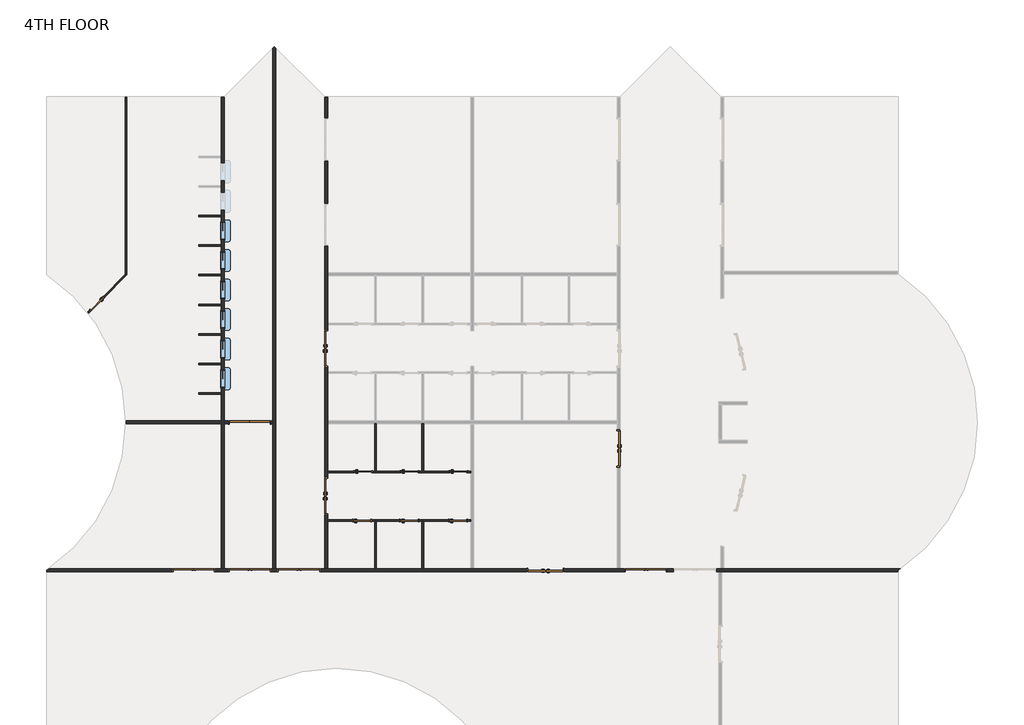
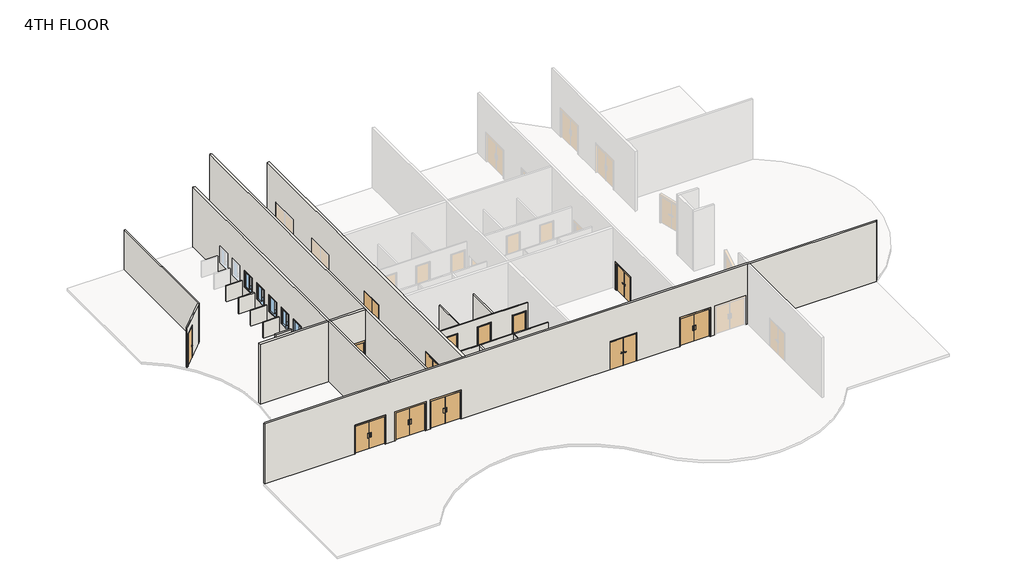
# One storey, part 1 of 2: 20 walls, 16 doors, 6 windows.
"""IFC4 building model written with IfcOpenShell, lengths in millimetres."""

from ifc_helpers import new_model, si_unit, point, frame, frame_2d, origin, place, context, project, spatial, polyline, circle_curve, trimmed, segment, composite_curve, outline, extrude, faceted_brep, transform, mapped, element, save
from ifc_brep_helpers import plane_surface, cylinder_surface, revolved_surface, advanced_brep
from components import door_2f250f70, door_0b13e4d9, door_b3a27a16, door_979b1b8c, door_f8b587be, pass_thru_4x3_19d81059

model = new_model("IFC4")

# Units and contexts
model_context = context("Model", 3, world=origin())
ifc_project = project(units=[si_unit("LENGTHUNIT", "METRE", prefix="MILLI")], contexts=[model_context])

# Site, building, storey
site = spatial("IfcSite", under=ifc_project)
building = spatial("IfcBuilding", under=site)
storey = spatial("IfcBuildingStorey", under=building, Name="4TH FLOOR", Elevation=18288.0)

# Doors
placement = place(None, origin())
door_shape = door_2f250f70(model_context)
element("IfcDoor", 1, ObjectType="Door-Passage-Double-Flush : 72\" x 82\"", at=placement, inside=storey, context=model_context, shape_type="MappedRepresentation", body=[
    mapped(door_shape, transform((14556.3400257, 13109.575, 18288.0), x_axis=(0.0, 1.0, 0.0), y_axis=(-1.0, 0.0, 0.0), z_axis=(0.0, 0.0, 1.0))),
])
element("IfcDoor", 2, ObjectType="Door-Passage-Double-Flush : 72\" x 82\"", at=placement, inside=storey, context=model_context, shape_type="MappedRepresentation", body=[
    mapped(door_shape, transform((14556.3400257, 20729.575, 18288.0), x_axis=(0.0, 1.0, 0.0), y_axis=(-1.0, 0.0, 0.0), z_axis=(0.0, 0.0, 1.0))),
])
element("IfcDoor", 3, ObjectType="Door-Passage-Double-Flush : 72\" x 82\"", at=placement, inside=storey, context=model_context, shape_type="MappedRepresentation", body=[
    mapped(door_shape, transform((25872.8337757, 9305.925, 18288.0), x_axis=(-1.0, 0.0, 0.0), y_axis=(0.0, -1.0, 0.0), z_axis=(0.0, 0.0, 1.0))),
])
element("IfcDoor", 4, ObjectType="Door-Passage-Double-Flush : 72\" x 82\"", at=placement, inside=storey, context=model_context, shape_type="MappedRepresentation", body=[
    mapped(door_shape, transform((29628.0650257, 15571.7875, 18288.0), x_axis=(0.0, -1.0, 0.0), y_axis=(1.0, 0.0, 0.0), z_axis=(0.0, 0.0, 1.0))),
])
door_2_shape = door_0b13e4d9(model_context)
element("IfcDoor", 5, ObjectType="Door-Passage-Double-Flush-Dbl_Acting : 84\" x 84\"", at=placement, inside=storey, context=model_context, shape_type="MappedRepresentation", body=[
    mapped(door_2_shape, transform((13151.4025257, 9293.225, 18288.0), x_axis=(-1.0, 0.0, 0.0), y_axis=(0.0, -1.0, 0.0), z_axis=(0.0, 0.0, 1.0))),
])
door_3_shape = door_b3a27a16(model_context)
element("IfcDoor", 6, ObjectType="Door-Passage-Double-Flush-Dbl_Acting : 84\" x 84\"", at=placement, inside=storey, context=model_context, shape_type="MappedRepresentation", body=[
    mapped(door_3_shape, transform((31033.0025257, 9293.225, 18288.0), x_axis=(1.0, 0.0, 0.0), y_axis=(0.0, 1.0, 0.0), z_axis=(0.0, 0.0, 1.0))),
])
element("IfcDoor", 7, ObjectType="Door-Passage-Double-Flush-Dbl_Acting : 84\" x 84\"", at=placement, inside=storey, context=model_context, shape_type="MappedRepresentation", body=[
    mapped(door_3_shape, transform((10620.375, 9293.225, 18288.0), x_axis=(1.0, 0.0, 0.0), y_axis=(0.0, 1.0, 0.0), z_axis=(0.0, 0.0, 1.0))),
])
element("IfcDoor", 8, ObjectType="Door-Passage-Double-Flush-Dbl_Acting : 84\" x 84\"", at=placement, inside=storey, context=model_context, shape_type="MappedRepresentation", body=[
    mapped(door_3_shape, transform((7730.5724743, 9293.225, 18288.0), x_axis=(1.0, 0.0, 0.0), y_axis=(0.0, 1.0, 0.0), z_axis=(0.0, 0.0, 1.0))),
])
element("IfcDoor", 9, ObjectType="Door-Passage-Double-Flush-Dbl_Acting : 84\" x 84\"", at=placement, inside=storey, context=model_context, shape_type="MappedRepresentation", body=[
    mapped(door_3_shape, transform((10620.375, 16913.225, 18288.0), x_axis=(1.0, 0.0, 0.0), y_axis=(0.0, 1.0, 0.0), z_axis=(0.0, 0.0, 1.0))),
])
door_4_shape = door_979b1b8c(model_context)
element("IfcDoor", 10, ObjectType="Door-Passage-Single-Flush : 36\" x 96\"", at=placement, inside=storey, context=model_context, shape_type="MappedRepresentation", body=[
    mapped(door_4_shape, transform((16456.5775257, 14357.35, 18288.0), x_axis=(1.0, 0.0, 0.0), y_axis=(0.0, 1.0, 0.0), z_axis=(0.0, 0.0, 1.0))),
])
element("IfcDoor", 11, ObjectType="Door-Passage-Single-Flush : 36\" x 96\"", at=placement, inside=storey, context=model_context, shape_type="MappedRepresentation", body=[
    mapped(door_4_shape, transform((18855.2900257, 14357.35, 18288.0), x_axis=(1.0, 0.0, 0.0), y_axis=(0.0, 1.0, 0.0), z_axis=(0.0, 0.0, 1.0))),
])
element("IfcDoor", 12, ObjectType="Door-Passage-Single-Flush : 36\" x 96\"", at=placement, inside=storey, context=model_context, shape_type="MappedRepresentation", body=[
    mapped(door_4_shape, transform((21373.0650257, 14357.35, 18288.0), x_axis=(1.0, 0.0, 0.0), y_axis=(0.0, 1.0, 0.0), z_axis=(0.0, 0.0, 1.0))),
])
element("IfcDoor", 13, ObjectType="Door-Passage-Single-Flush : 36\" x 96\"", at=placement, inside=storey, context=model_context, shape_type="MappedRepresentation", body=[
    mapped(door_4_shape, transform((2731.3607977, 23031.2061406, 18288.0), x_axis=(-0.7071067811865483, -0.7071067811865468, 0.0), y_axis=(0.7071067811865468, -0.7071067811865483, 0.0), z_axis=(0.0, 0.0, 1.0))),
])
door_5_shape = door_f8b587be(model_context)
element("IfcDoor", 14, ObjectType="Door-Passage-Single-Flush : 36\" x 96\"", at=placement, inside=storey, context=model_context, shape_type="MappedRepresentation", body=[
    mapped(door_5_shape, transform((16405.7775257, 11861.8, 18288.0), x_axis=(1.0, 0.0, 0.0), y_axis=(0.0, 1.0, 0.0), z_axis=(0.0, 0.0, 1.0))),
])
element("IfcDoor", 15, ObjectType="Door-Passage-Single-Flush : 36\" x 96\"", at=placement, inside=storey, context=model_context, shape_type="MappedRepresentation", body=[
    mapped(door_5_shape, transform((18836.2400257, 11861.8, 18288.0), x_axis=(1.0, 0.0, 0.0), y_axis=(0.0, 1.0, 0.0), z_axis=(0.0, 0.0, 1.0))),
])
element("IfcDoor", 16, ObjectType="Door-Passage-Single-Flush : 36\" x 96\"", at=placement, inside=storey, context=model_context, shape_type="MappedRepresentation", body=[
    mapped(door_5_shape, transform((21354.0150257, 11861.8, 18288.0), x_axis=(1.0, 0.0, 0.0), y_axis=(0.0, 1.0, 0.0), z_axis=(0.0, 0.0, 1.0))),
])

# Walls
element("IfcWall", 17, ObjectType="SYR_INT_ONE_HOUR", at=placement, inside=storey, context=model_context, shape_type="SweptSolid", body=[
    extrude(outline(polyline([(17066.1775257, 14403.3875), (17066.1775257, 16841.7875), (17145.5525257, 16841.7875), (17145.5525257, 14403.3875), (17066.1775257, 14403.3875)])), frame((0.0, 0.0, 18288.0), z_axis=(0.0, 0.0, 1.0), x_axis=(1.0, 0.0, 0.0)), (0.0, 0.0, 1.0), 3048.0),
])
element("IfcWall", 18, ObjectType="SYR_INT_ONE_HOUR", at=placement, inside=storey, context=model_context, shape_type="SweptSolid", body=[
    extrude(outline(polyline([(19576.0150257, 11815.7625), (19576.0150257, 9377.3625), (19496.6400257, 9377.3625), (19496.6400257, 11815.7625), (19576.0150257, 11815.7625)])), frame((0.0, 0.0, 18288.0), z_axis=(0.0, 0.0, 1.0), x_axis=(1.0, 0.0, 0.0)), (0.0, 0.0, 1.0), 3048.0),
])
element("IfcWall", 19, ObjectType="SYR_INT_ONE_HOUR", at=placement, inside=storey, context=model_context, shape_type="Brep", body=[
    faceted_brep([(14627.7775257, 14403.3875, 21336.0), (17066.1775257, 14403.3875, 21336.0), (17145.5525257, 14403.3875, 21336.0), (19496.6400257, 14403.3875, 21336.0), (19576.0150257, 14403.3875, 21336.0), (22014.4150257, 14403.3875, 21336.0), (22014.4150257, 14403.3875, 18288.0), (21862.0150257, 14403.3875, 18288.0), (21862.0150257, 14403.3875, 20758.15), (20884.1150257, 14403.3875, 20758.15), (20884.1150257, 14403.3875, 18288.0), (19576.0150257, 14403.3875, 18288.0), (19496.6400257, 14403.3875, 18288.0), (19344.2400257, 14403.3875, 18288.0), (19344.2400257, 14403.3875, 20758.15), (18366.3400257, 14403.3875, 20758.15), (18366.3400257, 14403.3875, 18288.0), (17145.5525257, 14403.3875, 18288.0), (17066.1775257, 14403.3875, 18288.0), (16945.5275257, 14403.3875, 18288.0), (16945.5275257, 14403.3875, 20758.15), (15967.6275257, 14403.3875, 20758.15), (15967.6275257, 14403.3875, 18288.0), (14627.7775257, 14403.3875, 18288.0), (22014.4150257, 14324.0125, 21336.0), (14627.7775257, 14324.0125, 21336.0), (14627.7775257, 14324.0125, 18288.0), (15967.6275257, 14324.0125, 18288.0), (15967.6275257, 14324.0125, 20758.15), (16945.5275257, 14324.0125, 20758.15), (16945.5275257, 14324.0125, 18288.0), (18366.3400257, 14324.0125, 18288.0), (18366.3400257, 14324.0125, 20758.15), (19344.2400257, 14324.0125, 20758.15), (19344.2400257, 14324.0125, 18288.0), (20884.1150257, 14324.0125, 18288.0), (20884.1150257, 14324.0125, 20758.15), (21862.0150257, 14324.0125, 20758.15), (21862.0150257, 14324.0125, 18288.0), (22014.4150257, 14324.0125, 18288.0)], [[[0, 1, 2, 3, 4, 5, 6, 7, 8, 9, 10, 11, 12, 13, 14, 15, 16, 17, 18, 19, 20, 21, 22, 23]], [[24, 25, 26, 27, 28, 29, 30, 31, 32, 33, 34, 35, 36, 37, 38, 39]], [[6, 39, 38, 7]], [[26, 23, 22, 27]], [[30, 19, 18, 17, 16, 31]], [[34, 13, 12, 11, 10, 35]], [[5, 4, 3, 2, 1, 0, 25, 24]], [[0, 23, 26, 25]], [[6, 5, 24, 39]], [[29, 20, 19, 30]], [[20, 29, 28, 21]], [[21, 28, 27, 22]], [[14, 13, 34, 33]], [[15, 14, 33, 32]], [[16, 15, 32, 31]], [[37, 8, 7, 38]], [[8, 37, 36, 9]], [[9, 36, 35, 10]]]),
])
element("IfcWall", 20, ObjectType="SYR_INT_ONE_HOUR", at=placement, inside=storey, context=model_context, shape_type="Brep", body=[
    faceted_brep([(14627.7775257, 11895.1375, 21336.0), (22014.4150257, 11895.1375, 21336.0), (22014.4150257, 11895.1375, 18288.0), (21842.9650257, 11895.1375, 18288.0), (21842.9650257, 11895.1375, 20758.15), (20865.0650257, 11895.1375, 20758.15), (20865.0650257, 11895.1375, 18288.0), (19325.1900257, 11895.1375, 18288.0), (19325.1900257, 11895.1375, 20758.15), (18347.2900257, 11895.1375, 20758.15), (18347.2900257, 11895.1375, 18288.0), (16894.7275257, 11895.1375, 18288.0), (16894.7275257, 11895.1375, 20758.15), (15916.8275257, 11895.1375, 20758.15), (15916.8275257, 11895.1375, 18288.0), (14627.7775257, 11895.1375, 18288.0), (22014.4150257, 11815.7625, 21336.0), (19576.0150257, 11815.7625, 21336.0), (19496.6400257, 11815.7625, 21336.0), (17145.5525257, 11815.7625, 21336.0), (17066.1775257, 11815.7625, 21336.0), (14627.7775257, 11815.7625, 21336.0), (14627.7775257, 11815.7625, 18288.0), (15916.8275257, 11815.7625, 18288.0), (15916.8275257, 11815.7625, 20758.15), (16894.7275257, 11815.7625, 20758.15), (16894.7275257, 11815.7625, 18288.0), (17066.1775257, 11815.7625, 18288.0), (17145.5525257, 11815.7625, 18288.0), (18347.2900257, 11815.7625, 18288.0), (18347.2900257, 11815.7625, 20758.15), (19325.1900257, 11815.7625, 20758.15), (19325.1900257, 11815.7625, 18288.0), (19496.6400257, 11815.7625, 18288.0), (19576.0150257, 11815.7625, 18288.0), (20865.0650257, 11815.7625, 18288.0), (20865.0650257, 11815.7625, 20758.15), (21842.9650257, 11815.7625, 20758.15), (21842.9650257, 11815.7625, 18288.0), (22014.4150257, 11815.7625, 18288.0)], [[[0, 1, 2, 3, 4, 5, 6, 7, 8, 9, 10, 11, 12, 13, 14, 15]], [[16, 17, 18, 19, 20, 21, 22, 23, 24, 25, 26, 27, 28, 29, 30, 31, 32, 33, 34, 35, 36, 37, 38, 39]], [[2, 39, 38, 3]], [[22, 15, 14, 23]], [[26, 11, 10, 29, 28, 27]], [[32, 7, 6, 35, 34, 33]], [[1, 0, 21, 20, 19, 18, 17, 16]], [[0, 15, 22, 21]], [[2, 1, 16, 39]], [[25, 12, 11, 26]], [[12, 25, 24, 13]], [[13, 24, 23, 14]], [[31, 8, 7, 32]], [[8, 31, 30, 9]], [[9, 30, 29, 10]], [[37, 4, 3, 38]], [[4, 37, 36, 5]], [[5, 36, 35, 6]]]),
])
element("IfcWall", 21, ObjectType="SYR_INT_ONE_HOUR", at=placement, inside=storey, context=model_context, shape_type="SweptSolid", body=[
    extrude(outline(polyline([(17066.1775257, 9377.3625), (17066.1775257, 11815.7625), (17145.5525257, 11815.7625), (17145.5525257, 9377.3625), (17066.1775257, 9377.3625)])), frame((0.0, 0.0, 18288.0), z_axis=(0.0, 0.0, 1.0), x_axis=(1.0, 0.0, 0.0)), (0.0, 0.0, 1.0), 3048.0),
])
element("IfcWall", 22, ObjectType="SYR_INT_ONE_HOUR", at=placement, inside=storey, context=model_context, shape_type="SweptSolid", body=[
    extrude(outline(polyline([(19576.0150257, 16841.7875), (19576.0150257, 14403.3875), (19496.6400257, 14403.3875), (19496.6400257, 16841.7875), (19576.0150257, 16841.7875)])), frame((0.0, 0.0, 18288.0), z_axis=(0.0, 0.0, 1.0), x_axis=(1.0, 0.0, 0.0)), (0.0, 0.0, 1.0), 3048.0),
])
element("IfcWall", 23, ObjectType="SYR_INT_ONE_HOUR", at=placement, inside=storey, context=model_context, shape_type="SweptSolid", body=[
    extrude(outline(polyline([(7979.2710938, 18443.575), (9144.0, 18443.575), (9144.0, 18364.2), (7979.2710938, 18364.2), (7979.2710938, 18443.575)])), frame((0.0, 0.0, 18288.0), z_axis=(0.0, 0.0, 1.0), x_axis=(1.0, 0.0, 0.0)), (0.0, 0.0, 1.0), 1219.2),
])
element("IfcWall", 24, ObjectType="SYR_INT_ONE_HOUR", at=placement, inside=storey, context=model_context, shape_type="SweptSolid", body=[
    extrude(outline(polyline([(7979.2710938, 19967.575), (9144.0, 19967.575), (9144.0, 19888.2), (7979.2710938, 19888.2), (7979.2710938, 19967.575)])), frame((0.0, 0.0, 18288.0), z_axis=(0.0, 0.0, 1.0), x_axis=(1.0, 0.0, 0.0)), (0.0, 0.0, 1.0), 1219.2),
])
element("IfcWall", 25, ObjectType="SYR_INT_ONE_HOUR", at=placement, inside=storey, context=model_context, shape_type="SweptSolid", body=[
    extrude(outline(polyline([(7979.2710938, 21491.575), (9144.0, 21491.575), (9144.0, 21412.2), (7979.2710938, 21412.2), (7979.2710938, 21491.575)])), frame((0.0, 0.0, 18288.0), z_axis=(0.0, 0.0, 1.0), x_axis=(1.0, 0.0, 0.0)), (0.0, 0.0, 1.0), 1219.2),
])
element("IfcWall", 26, ObjectType="SYR_INT_ONE_HOUR", at=placement, inside=storey, context=model_context, shape_type="SweptSolid", body=[
    extrude(outline(polyline([(7979.2710938, 23015.575), (9144.0, 23015.575), (9144.0, 22936.2), (7979.2710938, 22936.2), (7979.2710938, 23015.575)])), frame((0.0, 0.0, 18288.0), z_axis=(0.0, 0.0, 1.0), x_axis=(1.0, 0.0, 0.0)), (0.0, 0.0, 1.0), 1219.2),
])
element("IfcWall", 27, ObjectType="SYR_INT_ONE_HOUR", at=placement, inside=storey, context=model_context, shape_type="SweptSolid", body=[
    extrude(outline(polyline([(7979.2710938, 24539.575), (9144.0, 24539.575), (9144.0, 24460.2), (7979.2710938, 24460.2), (7979.2710938, 24539.575)])), frame((0.0, 0.0, 18288.0), z_axis=(0.0, 0.0, 1.0), x_axis=(1.0, 0.0, 0.0)), (0.0, 0.0, 1.0), 1219.2),
])
element("IfcWall", 28, ObjectType="SYR_INT_ONE_HOUR", at=placement, inside=storey, context=model_context, shape_type="SweptSolid", body=[
    extrude(outline(polyline([(7979.2710938, 26063.575), (9144.0, 26063.575), (9144.0, 25984.2), (7979.2710938, 25984.2), (7979.2710938, 26063.575)])), frame((0.0, 0.0, 18288.0), z_axis=(0.0, 0.0, 1.0), x_axis=(1.0, 0.0, 0.0)), (0.0, 0.0, 1.0), 1219.2),
])
element("IfcWall", 29, ObjectType="SYR_INT_ONE_HOUR", at=placement, inside=storey, context=model_context, shape_type="SweptSolid", body=[
    extrude(outline(polyline([(7979.2710938, 27587.575), (9144.0, 27587.575), (9144.0, 27508.2), (7979.2710938, 27508.2), (7979.2710938, 27587.575)])), frame((0.0, 0.0, 18288.0), z_axis=(0.0, 0.0, 1.0), x_axis=(1.0, 0.0, 0.0)), (0.0, 0.0, 1.0), 1219.2),
])
element("IfcWall", 30, ObjectType="SYR_INT_ONE_HOUR", at=placement, inside=storey, context=model_context, shape_type="Brep", body=[
    faceted_brep([(4209.0224132, 33683.575, 18288.0), (4209.0224132, 24556.0141008, 18288.0), (4209.0224132, 24443.7608992, 18288.0), (4209.0224132, 24443.7608992, 21336.0), (4209.0224132, 24556.0141008, 21336.0), (4209.0224132, 33683.575, 21336.0), (4288.3974132, 33683.575, 18288.0), (4288.3974132, 33683.575, 21336.0), (4288.3974132, 24523.1358992, 21336.0), (4288.3974132, 24523.1358992, 18288.0)], [[[0, 1, 2, 3, 4, 5]], [[6, 7, 8, 9]], [[2, 1, 0, 6, 9]], [[5, 4, 3, 8, 7]], [[3, 2, 9, 8]], [[0, 5, 7, 6]]]),
])
element("IfcWall", 31, ObjectType="SYR_INT_ONE_HOUR", at=placement, inside=storey, context=model_context, shape_type="AdvancedBrep", body=[
    advanced_brep(
    [(2260.5955581, 22607.5872456, 21336.0), (4209.0224132, 24556.0141008, 21336.0), (4209.0224132, 24556.0141008, 18288.0), (3053.527486, 23400.5191735, 18288.0), (3053.527486, 23400.5191735, 20758.15), (2362.0477647, 22709.0394522, 20758.15), (2362.0477647, 22709.0394522, 18288.0), (2260.5955581, 22607.5872456, 18288.0), (4209.0224132, 24443.7608992, 21336.0), (2310.04482, 22544.783306, 21336.0), (2310.04482, 22544.783306, 18288.0), (2418.1743655, 22652.9128515, 18288.0), (2418.1743655, 22652.9128515, 20758.15), (3109.6540868, 23344.3925728, 20758.15), (3109.6540868, 23344.3925728, 18288.0), (4209.0224132, 24443.7608992, 18288.0)],
    [
        (0, 1),
        (1, 2),
        (2, 3),
        (3, 4),
        (4, 5),
        (5, 6),
        (6, 7),
        (7, 0),
        (8, 9),
        (9, 10),
        (10, 11),
        (11, 12),
        (12, 13),
        (13, 14),
        (14, 15),
        (15, 8),
        (2, 15),
        (14, 3),
        (10, 7, circle_curve(frame((-4898.9611805, 16919.575, 18288.0), z_axis=(0.0, 0.0, 1.0), x_axis=(1.0, 0.0, 0.0)), 9144.0)),
        (6, 11),
        (0, 9, circle_curve(frame((-4898.9611805, 16919.575, 21336.0), z_axis=(0.0, 0.0, -1.0), x_axis=(1.0, 0.0, 0.0)), 9144.0)),
        (8, 1),
        (5, 12),
        (4, 13),
    ],
    [
        plane_surface(frame((4220.6466129, 24567.6383004, 18288.0), z_axis=(-0.7071067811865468, 0.7071067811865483, 0.0), x_axis=(-0.7071067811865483, -0.7071067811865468, 0.0))),
        plane_surface(frame((4276.7732136, 24511.5116996, 18288.0), z_axis=(0.7071067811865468, -0.7071067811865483, 0.0), x_axis=(0.7071067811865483, 0.7071067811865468, 0.0))),
        plane_surface(frame((4220.6466129, 24567.6383004, 18288.0), z_axis=(0.0, 0.0, -1.0), x_axis=(0.7071067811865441, -0.7071067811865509, 0.0))),
        plane_surface(frame((2146.5216178, 22493.5133053, 21336.0), z_axis=(0.0, 0.0, 1.0000000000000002), x_axis=(0.7071067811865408, -0.7071067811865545, 0.0))),
        plane_surface(frame((4209.0224132, 33778.5769531, 18288.0), z_axis=(1.0, 0.0, 0.0), x_axis=(0.0, -1.0, 0.0))),
        plane_surface(frame((1284.4170302, 23786.6701867, 18288.0), z_axis=(0.7071067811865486, 0.7071067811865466, 0.0), x_axis=(0.7071067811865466, -0.7071067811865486, 0.0))),
        plane_surface(frame((1284.4170302, 23786.6701867, 20758.15), z_axis=(0.0, 0.0, -1.0), x_axis=(0.7071067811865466, -0.7071067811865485, 0.0))),
        plane_surface(frame((1975.8967515, 24478.1499081, 20758.15), z_axis=(-0.7071067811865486, -0.7071067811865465, 0.0), x_axis=(0.7071067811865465, -0.7071067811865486, 0.0))),
        revolved_surface(polyline([(4245.0388195, 16919.575, 21336.0), (4245.0388195, 16919.575, 18288.0)]), (-4898.9611805, 16919.575, 0.0), (0.0, 0.0, 1.0)),
    ],
    [
        (0, [[1, 2, 3, 4, 5, 6, 7, 8]]),
        (1, [[9, 10, 11, 12, 13, 14, 15, 16]]),
        (2, [[17, -15, 18, -3]]),
        (2, [[19, -7, 20, -11]]),
        (3, [[-1, 21, -9, 22]]),
        (4, [[-2, -22, -16, -17]]),
        (5, [[23, -12, -20, -6]]),
        (6, [[-23, -5, 24, -13]]),
        (7, [[-24, -4, -18, -14]]),
        (8, [[-8, -19, -10, -21]]),
    ],
),
])
element("IfcWall", 32, ObjectType="SYR_INT_TWO_HOUR", at=placement, inside=storey, context=model_context, shape_type="AdvancedBrep", body=[
    advanced_brep(
    [(270.9292057, 9377.3625, 22860.0), (9144.0, 9377.3625, 22860.0), (9299.575, 9377.3625, 22860.0), (11808.1012629, 9377.3625, 22860.0), (11963.6762629, 9377.3625, 22860.0), (14472.2025257, 9377.3625, 22860.0), (14627.7775257, 9377.3625, 22860.0), (22014.4150257, 9377.3625, 22860.0), (22169.9900257, 9377.3625, 22860.0), (29556.6275257, 9377.3625, 22860.0), (29712.2025257, 9377.3625, 22860.0), (34884.8300515, 9377.3625, 22860.0), (35040.4050515, 9377.3625, 22860.0), (44144.1842571, 9377.3625, 22860.0), (44144.1842571, 9377.3625, 18288.0), (35040.4050515, 9377.3625, 18288.0), (34884.8300515, 9377.3625, 18288.0), (34681.6300515, 9377.3625, 18288.0), (34681.6300515, 9377.3625, 20523.2), (32446.4300515, 9377.3625, 20523.2), (32446.4300515, 9377.3625, 18288.0), (32150.6025257, 9377.3625, 18288.0), (32150.6025257, 9377.3625, 20523.2), (29915.4025257, 9377.3625, 20523.2), (29915.4025257, 9377.3625, 18288.0), (29712.2025257, 9377.3625, 18288.0), (29556.6275257, 9377.3625, 18288.0), (26838.0337757, 9377.3625, 18288.0), (26838.0337757, 9377.3625, 20472.4), (24907.6337757, 9377.3625, 20472.4), (24907.6337757, 9377.3625, 18288.0), (22169.9900257, 9377.3625, 18288.0), (22014.4150257, 9377.3625, 18288.0), (19576.0150257, 9377.3625, 18288.0), (19496.6400257, 9377.3625, 18288.0), (17145.5525257, 9377.3625, 18288.0), (17066.1775257, 9377.3625, 18288.0), (14627.7775257, 9377.3625, 18288.0), (14472.2025257, 9377.3625, 18288.0), (14269.0025257, 9377.3625, 18288.0), (14269.0025257, 9377.3625, 20523.2), (12033.8025257, 9377.3625, 20523.2), (12033.8025257, 9377.3625, 18288.0), (11963.6762629, 9377.3625, 18288.0), (11808.1012629, 9377.3625, 18288.0), (11737.975, 9377.3625, 18288.0), (11737.975, 9377.3625, 20523.2), (9502.775, 9377.3625, 20523.2), (9502.775, 9377.3625, 18288.0), (9299.575, 9377.3625, 18288.0), (9144.0, 9377.3625, 18288.0), (8848.1724743, 9377.3625, 18288.0), (8848.1724743, 9377.3625, 20523.2), (6612.9724743, 9377.3625, 20523.2), (6612.9724743, 9377.3625, 18288.0), (270.9292057, 9377.3625, 18288.0), (155.575, 9221.7875, 22860.0), (155.575, 9221.7875, 18288.0), (6612.9724743, 9221.7875, 18288.0), (6612.9724743, 9221.7875, 20523.2), (8848.1724743, 9221.7875, 20523.2), (8848.1724743, 9221.7875, 18288.0), (9502.775, 9221.7875, 18288.0), (9502.775, 9221.7875, 20523.2), (11737.975, 9221.7875, 20523.2), (11737.975, 9221.7875, 18288.0), (12033.8025257, 9221.7875, 18288.0), (12033.8025257, 9221.7875, 20523.2), (14269.0025257, 9221.7875, 20523.2), (14269.0025257, 9221.7875, 18288.0), (24907.6337757, 9221.7875, 18288.0), (24907.6337757, 9221.7875, 20472.4), (26838.0337757, 9221.7875, 20472.4), (26838.0337757, 9221.7875, 18288.0), (29915.4025257, 9221.7875, 18288.0), (29915.4025257, 9221.7875, 20523.2), (32150.6025257, 9221.7875, 20523.2), (32150.6025257, 9221.7875, 18288.0), (32446.4300515, 9221.7875, 18288.0), (32446.4300515, 9221.7875, 20523.2), (34681.6300515, 9221.7875, 20523.2), (34681.6300515, 9221.7875, 18288.0), (34803.3714577, 9221.7875, 18288.0), (34958.9464577, 9221.7875, 18288.0), (44028.8300515, 9221.7875, 18288.0), (44028.8300515, 9221.7875, 22860.0), (34958.9464577, 9221.7875, 22860.0), (34803.3714577, 9221.7875, 22860.0), (44028.8300515, 9299.575, 18288.0), (155.575, 9299.575, 18288.0), (155.575, 9299.575, 22860.0), (44028.8300515, 9299.575, 22860.0)],
    [
        (0, 1),
        (1, 2),
        (2, 3),
        (3, 4),
        (4, 5),
        (5, 6),
        (6, 7),
        (7, 8),
        (8, 9),
        (9, 10),
        (10, 11),
        (11, 12),
        (12, 13),
        (13, 14),
        (14, 15),
        (15, 16),
        (16, 17),
        (17, 18),
        (18, 19),
        (19, 20),
        (20, 21),
        (21, 22),
        (22, 23),
        (23, 24),
        (24, 25),
        (25, 26),
        (26, 27),
        (27, 28),
        (28, 29),
        (29, 30),
        (30, 31),
        (31, 32),
        (32, 33),
        (33, 34),
        (34, 35),
        (35, 36),
        (36, 37),
        (37, 38),
        (38, 39),
        (39, 40),
        (40, 41),
        (41, 42),
        (42, 43),
        (43, 44),
        (44, 45),
        (45, 46),
        (46, 47),
        (47, 48),
        (48, 49),
        (49, 50),
        (50, 51),
        (51, 52),
        (52, 53),
        (53, 54),
        (54, 55),
        (55, 0),
        (56, 57),
        (57, 58),
        (58, 59),
        (59, 60),
        (60, 61),
        (61, 62),
        (62, 63),
        (63, 64),
        (64, 65),
        (65, 66),
        (66, 67),
        (67, 68),
        (68, 69),
        (69, 70),
        (70, 71),
        (71, 72),
        (72, 73),
        (73, 74),
        (74, 75),
        (75, 76),
        (76, 77),
        (77, 78),
        (78, 79),
        (79, 80),
        (80, 81),
        (81, 82),
        (82, 83),
        (83, 84),
        (84, 85),
        (85, 86),
        (86, 87),
        (87, 56),
        (20, 78),
        (77, 21),
        (81, 17),
        (14, 88, circle_curve(frame((38974.293871, 16919.575, 18288.0), z_axis=(0.0, 0.0, -1.0), x_axis=(0.8333333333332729, 0.5527707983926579, 0.0)), 9144.0)),
        (88, 84),
        (24, 74),
        (73, 27),
        (42, 66),
        (65, 45),
        (69, 39),
        (30, 70),
        (48, 62),
        (61, 51),
        (54, 58),
        (57, 89),
        (89, 55, circle_curve(frame((-4898.9611805, 16919.575, 18288.0), z_axis=(0.0, 0.0, 1.0), x_axis=(0.8333333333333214, 0.5527707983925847, 0.0)), 9144.0)),
        (0, 90, circle_curve(frame((-4898.9611805, 16919.575, 22860.0), z_axis=(0.0, 0.0, -1.0), x_axis=(0.8333333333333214, 0.5527707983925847, 0.0)), 9144.0)),
        (90, 56),
        (85, 91),
        (91, 13, circle_curve(frame((38974.293871, 16919.575, 22860.0), z_axis=(0.0, 0.0, 1.0), x_axis=(0.8333333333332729, 0.5527707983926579, 0.0)), 9144.0)),
        (19, 79),
        (18, 80),
        (76, 22),
        (75, 23),
        (41, 67),
        (40, 68),
        (64, 46),
        (63, 47),
        (60, 52),
        (59, 53),
        (29, 71),
        (28, 72),
        (89, 90),
        (91, 88),
    ],
    [
        plane_surface(frame((44028.8300515, 9377.3625, 18288.0), z_axis=(0.0, 1.0, 0.0), x_axis=(-1.0, 0.0, 0.0))),
        plane_surface(frame((44028.8300515, 9221.7875, 18288.0), z_axis=(0.0, -1.0, 0.0), x_axis=(1.0, 0.0, 0.0))),
        plane_surface(frame((44305.118871, 9377.3625, 18288.0), z_axis=(0.0, 0.0, -1.0), x_axis=(0.0, -1.0, 0.0))),
        plane_surface(frame((0.0, 9377.3625, 22860.0), z_axis=(0.0, 0.0, 1.0), x_axis=(0.0, -1.0, 0.0))),
        plane_surface(frame((32446.4300515, 10745.7875, 18288.0), z_axis=(1.0, 0.0, 0.0), x_axis=(0.0, -1.0, 0.0))),
        plane_surface(frame((32446.4300515, 10745.7875, 20523.2), z_axis=(0.0, 0.0, -1.0), x_axis=(0.0, -1.0, 0.0))),
        plane_surface(frame((34681.6300515, 10745.7875, 20523.2), z_axis=(-1.0, 0.0, 0.0), x_axis=(0.0, -1.0, 0.0))),
        plane_surface(frame((32150.6025257, 7697.7875, 18288.0), z_axis=(-1.0, 0.0, 0.0), x_axis=(0.0, 1.0, 0.0))),
        plane_surface(frame((32150.6025257, 7697.7875, 20523.2), z_axis=(0.0, 0.0, -1.0), x_axis=(0.0, 1.0, 0.0))),
        plane_surface(frame((29915.4025257, 7697.7875, 20523.2), z_axis=(1.0, 0.0, 0.0), x_axis=(0.0, 1.0, 0.0))),
        plane_surface(frame((12033.8025257, 10745.7875, 18288.0), z_axis=(1.0, 0.0, 0.0), x_axis=(0.0, -1.0, 0.0))),
        plane_surface(frame((12033.8025257, 10745.7875, 20523.2), z_axis=(0.0, 0.0, -1.0), x_axis=(0.0, -1.0, 0.0))),
        plane_surface(frame((14269.0025257, 10745.7875, 20523.2), z_axis=(-1.0, 0.0, 0.0), x_axis=(0.0, -1.0, 0.0))),
        plane_surface(frame((11737.975, 7697.7875, 18288.0), z_axis=(-1.0, 0.0, 0.0), x_axis=(0.0, 1.0, 0.0))),
        plane_surface(frame((11737.975, 7697.7875, 20523.2), z_axis=(0.0, 0.0, -1.0), x_axis=(0.0, 1.0, 0.0))),
        plane_surface(frame((9502.775, 7697.7875, 20523.2), z_axis=(1.0, 0.0, 0.0), x_axis=(0.0, 1.0, 0.0))),
        plane_surface(frame((8848.1724743, 7697.7875, 18288.0), z_axis=(-1.0, 0.0, 0.0), x_axis=(0.0, 1.0, 0.0))),
        plane_surface(frame((8848.1724743, 7697.7875, 20523.2), z_axis=(0.0, 0.0, -1.0), x_axis=(0.0, 1.0, 0.0))),
        plane_surface(frame((6612.9724743, 7697.7875, 20523.2), z_axis=(1.0, 0.0, 0.0), x_axis=(0.0, 1.0, 0.0))),
        plane_surface(frame((24907.6337757, 10901.3625, 18288.0), z_axis=(1.0, 0.0, 0.0), x_axis=(0.0, -1.0, 0.0))),
        plane_surface(frame((24907.6337757, 10901.3625, 20472.4), z_axis=(0.0, 0.0, -1.0), x_axis=(0.0, -1.0, 0.0))),
        plane_surface(frame((26838.0337757, 10901.3625, 20472.4), z_axis=(-1.0, 0.0, 0.0), x_axis=(0.0, -1.0, 0.0))),
        revolved_surface(polyline([(2721.0388194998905, 21974.111180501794, 22860.0), (2721.0388194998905, 21974.111180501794, 18288.0)]), (-4898.9611805, 16919.575, 18059.4), (0.0, 0.0, 1.0)),
        plane_surface(frame((155.575, -12852.9844355, 18059.4), z_axis=(-1.0, 0.0, 0.0), x_axis=(0.0, -1.0, 0.0))),
        cylinder_surface(frame((38974.293871, 16919.575, 18059.4), z_axis=(0.0, 0.0, 1.0), x_axis=(0.8333333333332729, 0.5527707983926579, 0.0)), 9144.0),
        plane_surface(frame((44028.8300515, -12852.9844355, 18059.4), z_axis=(1.0, 0.0, 0.0), x_axis=(0.0, 1.0, 0.0))),
    ],
    [
        (0, [[1, 2, 3, 4, 5, 6, 7, 8, 9, 10, 11, 12, 13, 14, 15, 16, 17, 18, 19, 20, 21, 22, 23, 24, 25, 26, 27, 28, 29, 30, 31, 32, 33, 34, 35, 36, 37, 38, 39, 40, 41, 42, 43, 44, 45, 46, 47, 48, 49, 50, 51, 52, 53, 54, 55, 56]]),
        (1, [[57, 58, 59, 60, 61, 62, 63, 64, 65, 66, 67, 68, 69, 70, 71, 72, 73, 74, 75, 76, 77, 78, 79, 80, 81, 82, 83, 84, 85, 86, 87, 88]]),
        (2, [[89, -78, 90, -21]]),
        (2, [[91, -17, -16, -15, 92, 93, -84, -83, -82]]),
        (2, [[94, -74, 95, -27, -26, -25]]),
        (2, [[96, -66, 97, -45, -44, -43]]),
        (2, [[98, -39, -38, -37, -36, -35, -34, -33, -32, -31, 99, -70]]),
        (2, [[100, -62, 101, -51, -50, -49]]),
        (2, [[-55, 102, -58, 103, 104]]),
        (3, [[-13, -12, -11, -10, -9, -8, -7, -6, -5, -4, -3, -2, -1, 105, 106, -88, -87, -86, 107, 108]]),
        (4, [[109, -79, -89, -20]]),
        (5, [[-109, -19, 110, -80]]),
        (6, [[-110, -18, -91, -81]]),
        (7, [[111, -22, -90, -77]]),
        (8, [[-111, -76, 112, -23]]),
        (9, [[-112, -75, -94, -24]]),
        (10, [[113, -67, -96, -42]]),
        (11, [[-113, -41, 114, -68]]),
        (12, [[-114, -40, -98, -69]]),
        (13, [[115, -46, -97, -65]]),
        (14, [[-115, -64, 116, -47]]),
        (15, [[-116, -63, -100, -48]]),
        (16, [[117, -52, -101, -61]]),
        (17, [[-117, -60, 118, -53]]),
        (18, [[-118, -59, -102, -54]]),
        (19, [[119, -71, -99, -30]]),
        (20, [[-119, -29, 120, -72]]),
        (21, [[-120, -28, -95, -73]]),
        (22, [[-56, -104, 121, -105]]),
        (23, [[-57, -106, -121, -103]]),
        (24, [[-14, -108, 122, -92]]),
        (25, [[-85, -93, -122, -107]]),
    ],
),
])
element("IfcWall", 33, ObjectType="SYR_INT_TWO_HOUR", at=placement, inside=storey, context=model_context, shape_type="Brep", body=[
    faceted_brep([(9144.0, 33683.575, 18288.0), (9144.0, 30635.575, 18288.0), (9144.0, 30556.2, 18288.0), (9144.0, 29111.575, 18288.0), (9144.0, 29032.2, 18288.0), (9144.0, 27587.575, 18288.0), (9144.0, 27508.2, 18288.0), (9144.0, 26063.575, 18288.0), (9144.0, 25984.2, 18288.0), (9144.0, 24539.575, 18288.0), (9144.0, 24460.2, 18288.0), (9144.0, 23015.575, 18288.0), (9144.0, 22936.2, 18288.0), (9144.0, 21491.575, 18288.0), (9144.0, 21412.2, 18288.0), (9144.0, 19967.575, 18288.0), (9144.0, 19888.2, 18288.0), (9144.0, 18443.575, 18288.0), (9144.0, 18364.2, 18288.0), (9144.0, 16997.3625, 18288.0), (9144.0, 16841.7875, 18288.0), (9144.0, 9377.3625, 18288.0), (9144.0, 9377.3625, 22860.0), (9144.0, 16841.7875, 22860.0), (9144.0, 16997.3625, 22860.0), (9144.0, 33683.575, 22860.0), (9144.0, 19623.0875, 20421.6), (9144.0, 18708.6875, 20421.6), (9144.0, 18708.6875, 19202.4), (9144.0, 19623.0875, 19202.4), (9144.0, 21147.0875, 20421.6), (9144.0, 20232.6875, 20421.6), (9144.0, 20232.6875, 19202.4), (9144.0, 21147.0875, 19202.4), (9144.0, 22671.0875, 20421.6), (9144.0, 21756.6875, 20421.6), (9144.0, 21756.6875, 19202.4), (9144.0, 22671.0875, 19202.4), (9144.0, 24195.0875, 20421.6), (9144.0, 23280.6875, 20421.6), (9144.0, 23280.6875, 19202.4), (9144.0, 24195.0875, 19202.4), (9144.0, 25719.0875, 20421.6), (9144.0, 24804.6875, 20421.6), (9144.0, 24804.6875, 19202.4), (9144.0, 25719.0875, 19202.4), (9144.0, 27243.0875, 20421.6), (9144.0, 26328.6875, 20421.6), (9144.0, 26328.6875, 19202.4), (9144.0, 27243.0875, 19202.4), (9144.0, 28767.0875, 20421.6), (9144.0, 27852.6875, 20421.6), (9144.0, 27852.6875, 19202.4), (9144.0, 28767.0875, 19202.4), (9144.0, 30291.0875, 20421.6), (9144.0, 29376.6875, 20421.6), (9144.0, 29376.6875, 19202.4), (9144.0, 30291.0875, 19202.4), (9299.575, 33683.575, 18288.0), (9299.575, 33683.575, 22860.0), (9299.575, 16997.3625, 22860.0), (9299.575, 16841.7875, 22860.0), (9299.575, 9377.3625, 22860.0), (9299.575, 9377.3625, 18288.0), (9299.575, 16841.7875, 18288.0), (9299.575, 16997.3625, 18288.0), (9299.575, 19623.0875, 20421.6), (9299.575, 19623.0875, 19202.4), (9299.575, 18708.6875, 19202.4), (9299.575, 18708.6875, 20421.6), (9299.575, 21147.0875, 20421.6), (9299.575, 21147.0875, 19202.4), (9299.575, 20232.6875, 19202.4), (9299.575, 20232.6875, 20421.6), (9299.575, 22671.0875, 20421.6), (9299.575, 22671.0875, 19202.4), (9299.575, 21756.6875, 19202.4), (9299.575, 21756.6875, 20421.6), (9299.575, 24195.0875, 20421.6), (9299.575, 24195.0875, 19202.4), (9299.575, 23280.6875, 19202.4), (9299.575, 23280.6875, 20421.6), (9299.575, 25719.0875, 20421.6), (9299.575, 25719.0875, 19202.4), (9299.575, 24804.6875, 19202.4), (9299.575, 24804.6875, 20421.6), (9299.575, 27243.0875, 20421.6), (9299.575, 27243.0875, 19202.4), (9299.575, 26328.6875, 19202.4), (9299.575, 26328.6875, 20421.6), (9299.575, 28767.0875, 20421.6), (9299.575, 28767.0875, 19202.4), (9299.575, 27852.6875, 19202.4), (9299.575, 27852.6875, 20421.6), (9299.575, 30291.0875, 20421.6), (9299.575, 30291.0875, 19202.4), (9299.575, 29376.6875, 19202.4), (9299.575, 29376.6875, 20421.6)], [[[0, 1, 2, 3, 4, 5, 6, 7, 8, 9, 10, 11, 12, 13, 14, 15, 16, 17, 18, 19, 20, 21, 22, 23, 24, 25], [26, 27, 28, 29], [30, 31, 32, 33], [34, 35, 36, 37], [38, 39, 40, 41], [42, 43, 44, 45], [46, 47, 48, 49], [50, 51, 52, 53], [54, 55, 56, 57]], [[58, 59, 60, 61, 62, 63, 64, 65], [66, 67, 68, 69], [70, 71, 72, 73], [74, 75, 76, 77], [78, 79, 80, 81], [82, 83, 84, 85], [86, 87, 88, 89], [90, 91, 92, 93], [94, 95, 96, 97]], [[21, 20, 19, 18, 17, 16, 15, 14, 13, 12, 11, 10, 9, 8, 7, 6, 5, 4, 3, 2, 1, 0, 58, 65, 64, 63]], [[25, 24, 23, 22, 62, 61, 60, 59]], [[22, 21, 63, 62]], [[67, 66, 26, 29]], [[68, 67, 29, 28]], [[69, 68, 28, 27]], [[66, 69, 27, 26]], [[71, 70, 30, 33]], [[72, 71, 33, 32]], [[73, 72, 32, 31]], [[70, 73, 31, 30]], [[75, 74, 34, 37]], [[76, 75, 37, 36]], [[77, 76, 36, 35]], [[74, 77, 35, 34]], [[79, 78, 38, 41]], [[80, 79, 41, 40]], [[81, 80, 40, 39]], [[78, 81, 39, 38]], [[83, 82, 42, 45]], [[84, 83, 45, 44]], [[85, 84, 44, 43]], [[82, 85, 43, 42]], [[87, 86, 46, 49]], [[88, 87, 49, 48]], [[89, 88, 48, 47]], [[86, 89, 47, 46]], [[91, 90, 50, 53]], [[92, 91, 53, 52]], [[93, 92, 52, 51]], [[90, 93, 51, 50]], [[95, 94, 54, 57]], [[96, 95, 57, 56]], [[97, 96, 56, 55]], [[94, 97, 55, 54]], [[0, 25, 59, 58]]]),
])
element("IfcWall", 34, ObjectType="SYR_INT_TWO_HOUR", at=placement, inside=storey, context=model_context, shape_type="Brep", body=[
    faceted_brep([(14472.2025257, 9377.3625, 22860.0), (14472.2025257, 33683.575, 22860.0), (14472.2025257, 33683.575, 18288.0), (14472.2025257, 32616.775, 18288.0), (14472.2025257, 32616.775, 20523.2), (14472.2025257, 30381.575, 20523.2), (14472.2025257, 30381.575, 18288.0), (14472.2025257, 28219.4, 18288.0), (14472.2025257, 28219.4, 20523.2), (14472.2025257, 25984.2, 20523.2), (14472.2025257, 25984.2, 18288.0), (14472.2025257, 21694.775, 18288.0), (14472.2025257, 21694.775, 20472.4), (14472.2025257, 19764.375, 20472.4), (14472.2025257, 19764.375, 18288.0), (14472.2025257, 14074.775, 18288.0), (14472.2025257, 14074.775, 20472.4), (14472.2025257, 12144.375, 20472.4), (14472.2025257, 12144.375, 18288.0), (14472.2025257, 9377.3625, 18288.0), (14627.7775257, 33683.575, 22860.0), (14627.7775257, 24617.3625, 22860.0), (14627.7775257, 24461.7875, 22860.0), (14627.7775257, 16997.3625, 22860.0), (14627.7775257, 16841.7875, 22860.0), (14627.7775257, 9377.3625, 22860.0), (14627.7775257, 9377.3625, 18288.0), (14627.7775257, 11815.7625, 18288.0), (14627.7775257, 11895.1375, 18288.0), (14627.7775257, 12144.375, 18288.0), (14627.7775257, 12144.375, 20472.4), (14627.7775257, 14074.775, 20472.4), (14627.7775257, 14074.775, 18288.0), (14627.7775257, 14324.0125, 18288.0), (14627.7775257, 14403.3875, 18288.0), (14627.7775257, 16841.7875, 18288.0), (14627.7775257, 16997.3625, 18288.0), (14627.7775257, 19435.7625, 18288.0), (14627.7775257, 19515.1375, 18288.0), (14627.7775257, 19764.375, 18288.0), (14627.7775257, 19764.375, 20472.4), (14627.7775257, 21694.775, 20472.4), (14627.7775257, 21694.775, 18288.0), (14627.7775257, 21944.0125, 18288.0), (14627.7775257, 22023.3875, 18288.0), (14627.7775257, 24461.7875, 18288.0), (14627.7775257, 24617.3625, 18288.0), (14627.7775257, 25984.2, 18288.0), (14627.7775257, 25984.2, 20523.2), (14627.7775257, 28219.4, 20523.2), (14627.7775257, 28219.4, 18288.0), (14627.7775257, 30381.575, 18288.0), (14627.7775257, 30381.575, 20523.2), (14627.7775257, 32616.775, 20523.2), (14627.7775257, 32616.775, 18288.0), (14627.7775257, 33683.575, 18288.0)], [[[0, 1, 2, 3, 4, 5, 6, 7, 8, 9, 10, 11, 12, 13, 14, 15, 16, 17, 18, 19]], [[20, 21, 22, 23, 24, 25, 26, 27, 28, 29, 30, 31, 32, 33, 34, 35, 36, 37, 38, 39, 40, 41, 42, 43, 44, 45, 46, 47, 48, 49, 50, 51, 52, 53, 54, 55]], [[26, 19, 18, 29, 28, 27]], [[32, 15, 14, 39, 38, 37, 36, 35, 34, 33]], [[42, 11, 10, 47, 46, 45, 44, 43]], [[3, 2, 55, 54]], [[6, 51, 50, 7]], [[1, 0, 25, 24, 23, 22, 21, 20]], [[0, 19, 26, 25]], [[31, 16, 15, 32]], [[16, 31, 30, 17]], [[17, 30, 29, 18]], [[41, 12, 11, 42]], [[12, 41, 40, 13]], [[13, 40, 39, 14]], [[53, 4, 3, 54]], [[4, 53, 52, 5]], [[5, 52, 51, 6]], [[49, 8, 7, 50]], [[8, 49, 48, 9]], [[9, 48, 47, 10]], [[2, 1, 20, 55]]]),
])
element("IfcWall", 35, ObjectType="SYR_INT_TWO_HOUR", at=placement, inside=storey, context=model_context, shape_type="Brep", body=[
    faceted_brep([(11963.6762629, 9377.3625, 18288.0), (11963.6762629, 36192.1012629, 18288.0), (11963.6762629, 36192.1012629, 22860.0), (11963.6762629, 9377.3625, 22860.0), (11808.1012629, 9377.3625, 18288.0), (11808.1012629, 9377.3625, 22860.0), (11808.1012629, 16841.7875, 22860.0), (11808.1012629, 16997.3625, 22860.0), (11808.1012629, 36192.1012629, 22860.0), (11808.1012629, 36192.1012629, 18288.0), (11808.1012629, 16997.3625, 18288.0), (11808.1012629, 16841.7875, 18288.0), (11885.8887629, 36269.8887629, 18288.0), (11885.8887629, 36269.8887629, 22860.0)], [[[0, 1, 2, 3]], [[4, 5, 6, 7, 8, 9, 10, 11]], [[1, 0, 4, 11, 10, 9, 12]], [[3, 2, 13, 8, 7, 6, 5]], [[0, 3, 5, 4]], [[2, 1, 12, 13]], [[12, 9, 8, 13]]]),
])
element("IfcWall", 36, ObjectType="SYR_INT_TWO_HOUR", at=placement, inside=storey, context=model_context, shape_type="SweptSolid", body=[
    extrude(outline(polyline([(18288.0, 11808.1012629), (22860.0, 11808.1012629), (22860.0, 9299.575), (18288.0, 9299.575), (18288.0, 9502.775), (20523.2, 9502.775), (20523.2, 11737.975), (18288.0, 11737.975), (18288.0, 11808.1012629)])), frame((0.0, 16841.7875, 0.0), z_axis=(0.0, 1.0, 0.0), x_axis=(0.0, 0.0, 1.0)), (0.0, 0.0, 1.0), 155.575),
    extrude(outline(composite_curve([segment(trimmed(circle_curve(frame_2d((-4898.9611805, 16919.575)), 9144.0), [point((4244.7079465, 16841.7875))], [point((4244.7079465, 16997.3625))], True, "CARTESIAN"), True, "CONTINUOUS"), segment(polyline([(4244.7079465, 16997.3625), (9144.0, 16997.3625), (9144.0, 16841.7875), (4244.7079465, 16841.7875)]), True, "CONTINUOUS")], self_intersect=False)), frame((0.0, 0.0, 18288.0), z_axis=(0.0, 0.0, 1.0), x_axis=(1.0, 0.0, 0.0)), (0.0, 0.0, 1.0), 4572.0),
])

# Windows
pass_thru_4x3_shape = pass_thru_4x3_19d81059(model_context)
element("IfcWindow", 37, ObjectType="Pass thru : 4x3", at=placement, inside=storey, context=model_context, shape_type="MappedRepresentation", body=[
    mapped(pass_thru_4x3_shape, transform((9221.7875, 19165.8875, 18288.0), x_axis=(0.0, 1.0, 0.0), y_axis=(-1.0, 0.0, 0.0), z_axis=(0.0, 0.0, 1.0))),
])
element("IfcWindow", 38, ObjectType="Pass thru : 4x3", at=placement, inside=storey, context=model_context, shape_type="MappedRepresentation", body=[
    mapped(pass_thru_4x3_shape, transform((9221.7875, 20689.8875, 18288.0), x_axis=(0.0, 1.0, 0.0), y_axis=(-1.0, 0.0, 0.0), z_axis=(0.0, 0.0, 1.0))),
])
element("IfcWindow", 39, ObjectType="Pass thru : 4x3", at=placement, inside=storey, context=model_context, shape_type="MappedRepresentation", body=[
    mapped(pass_thru_4x3_shape, transform((9221.7875, 22213.8875, 18288.0), x_axis=(0.0, 1.0, 0.0), y_axis=(-1.0, 0.0, 0.0), z_axis=(0.0, 0.0, 1.0))),
])
element("IfcWindow", 40, ObjectType="Pass thru : 4x3", at=placement, inside=storey, context=model_context, shape_type="MappedRepresentation", body=[
    mapped(pass_thru_4x3_shape, transform((9221.7875, 23737.8875, 18288.0), x_axis=(0.0, 1.0, 0.0), y_axis=(-1.0, 0.0, 0.0), z_axis=(0.0, 0.0, 1.0))),
])
element("IfcWindow", 41, ObjectType="Pass thru : 4x3", at=placement, inside=storey, context=model_context, shape_type="MappedRepresentation", body=[
    mapped(pass_thru_4x3_shape, transform((9221.7875, 25261.8875, 18288.0), x_axis=(0.0, 1.0, 0.0), y_axis=(-1.0, 0.0, 0.0), z_axis=(0.0, 0.0, 1.0))),
])
element("IfcWindow", 42, ObjectType="Pass thru : 4x3", at=placement, inside=storey, context=model_context, shape_type="MappedRepresentation", body=[
    mapped(pass_thru_4x3_shape, transform((9221.7875, 26785.8875, 18288.0), x_axis=(0.0, 1.0, 0.0), y_axis=(-1.0, 0.0, 0.0), z_axis=(0.0, 0.0, 1.0))),
])

save(model, "model.ifc")
